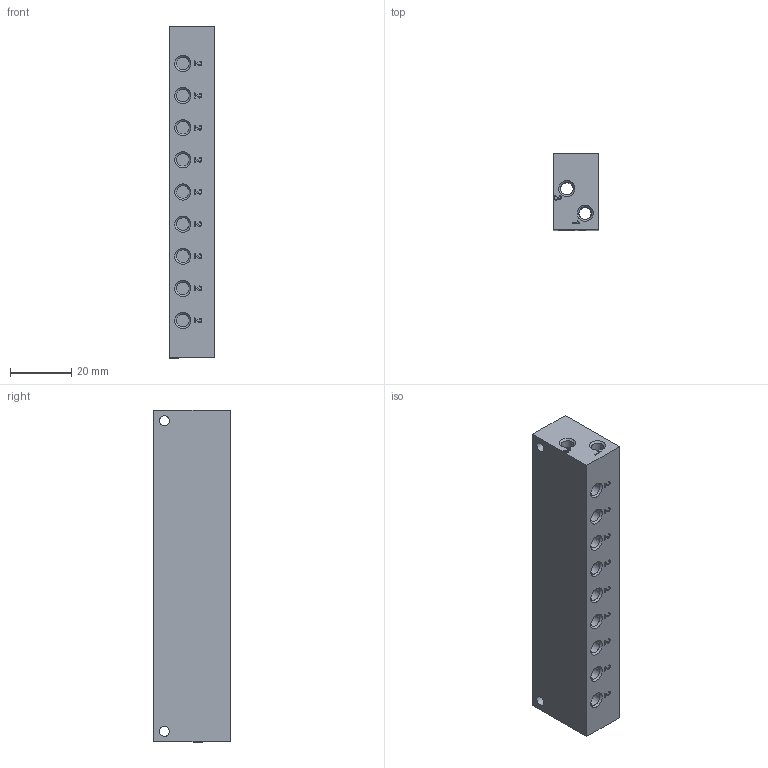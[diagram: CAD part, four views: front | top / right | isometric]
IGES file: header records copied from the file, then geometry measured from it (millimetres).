
Global section: file name: P395_09; native system: Autodesk Inventor 2014; preprocessor: unknown; date: 20160908.083145; units: millimetre
Bounding box: 15 x 25 x 108.5 mm (x, y, z)
Volume: 36424.3 mm3; surface area: 13479.8 mm2
Topology: 1 solids, 1 shells, 277 faces, 797 edges, 546 vertices
Faces by surface type: bspline 277
